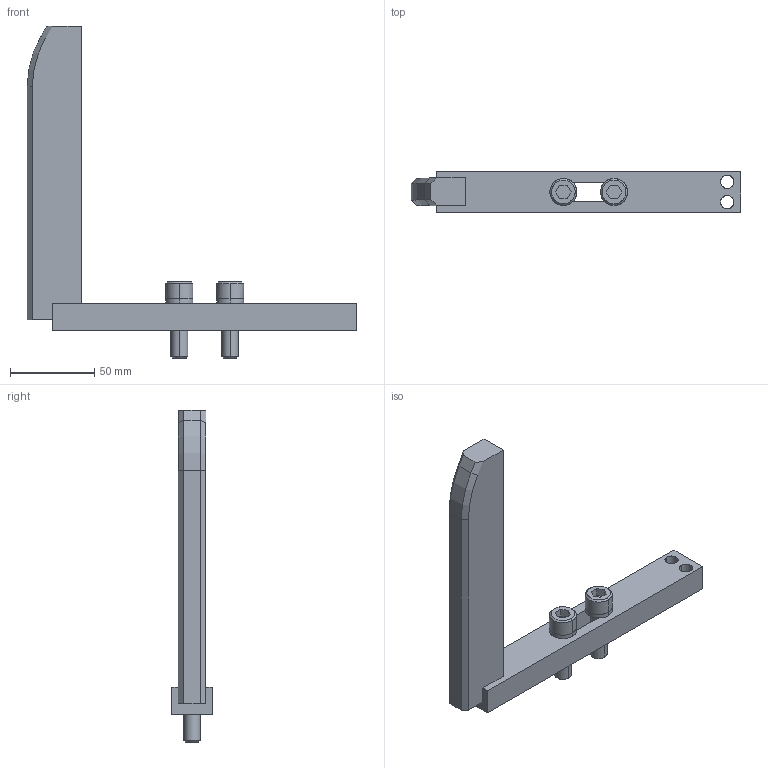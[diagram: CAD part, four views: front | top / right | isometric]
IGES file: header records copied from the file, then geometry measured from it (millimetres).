
Global section: file name: E:\UnigraphicsGraphicData\MISUMI_PRESS-PARTS\IGES\3d_ngnx-180-20-a180-b75-m10_01569_r00.igs; native system: NX V5.0; preprocessor: UGS NX IGES V5.0; author: MISUMI; date: 20110105.162105; units: millimetre
Bounding box: 195 x 24 x 196.5 mm (x, y, z)
Surface area: 39008.6 mm2 (no closed solid volume)
Topology: 0 solids, 0 shells, 100 faces, 630 edges, 630 vertices
Faces by surface type: bspline 100
